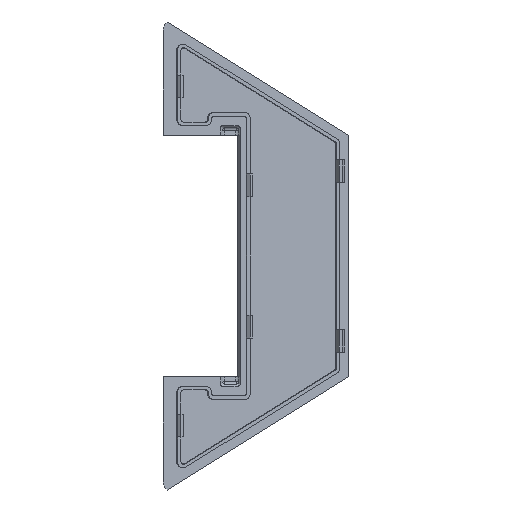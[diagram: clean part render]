
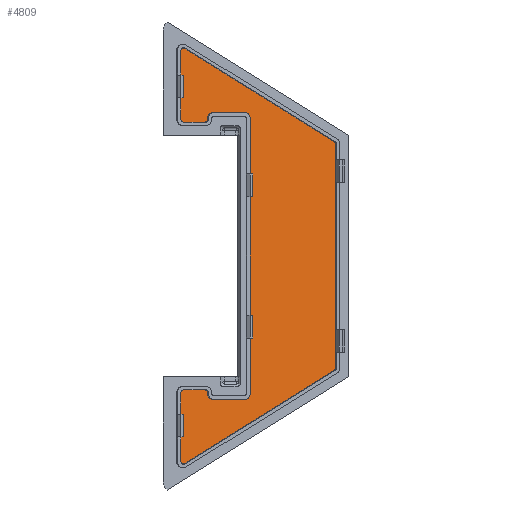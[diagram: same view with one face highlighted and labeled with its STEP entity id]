
A CAD part, front view. The second image highlights one B-rep face of the part: STEP entity #4809.
In plain terms, the highlighted planar face has unit normal (0.244, -0.97, 0).
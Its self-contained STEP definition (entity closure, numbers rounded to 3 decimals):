
#771=DIRECTION('',(-0.97,-0.244,0.));
#772=VECTOR('',#771,11.241);
#773=CARTESIAN_POINT('',(-55.186,55.098,50.7));
#774=LINE('',#773,#772);
#775=DIRECTION('',(0.,0.,-1.));
#776=VECTOR('',#775,0.35);
#777=CARTESIAN_POINT('',(-68.028,51.872,48.7));
#778=LINE('',#777,#776);
#779=CARTESIAN_POINT('',(-68.998,51.628,48.35));
#780=DIRECTION('',(0.244,-0.97,0.));
#781=DIRECTION('',(0.,0.,-1.));
#782=AXIS2_PLACEMENT_3D('',#779,#780,#781);
#784=DIRECTION('',(-0.97,-0.244,0.));
#785=VECTOR('',#784,8.005);
#786=CARTESIAN_POINT('',(-68.998,51.628,47.35));
#787=LINE('',#786,#785);
#788=CARTESIAN_POINT('',(-76.762,49.678,48.35));
#789=DIRECTION('',(0.244,-0.97,0.));
#790=DIRECTION('',(-0.97,-0.244,0.));
#791=AXIS2_PLACEMENT_3D('',#788,#789,#790);
#793=DIRECTION('',(0.,0.,1.));
#794=VECTOR('',#793,24.244);
#795=CARTESIAN_POINT('',(-77.732,49.435,48.35));
#796=LINE('',#795,#794);
#797=CARTESIAN_POINT('',(-76.762,49.678,72.594));
#798=DIRECTION('',(0.244,-0.97,0.));
#799=DIRECTION('',(0.502,0.126,0.856));
#800=AXIS2_PLACEMENT_3D('',#797,#798,#799);
#802=DIRECTION('',(0.83,0.208,-0.517));
#803=VECTOR('',#802,64.015);
#804=CARTESIAN_POINT('',(-76.26,49.804,73.45));
#805=LINE('',#804,#803);
#806=CARTESIAN_POINT('',(-23.628,63.024,39.48));
#807=DIRECTION('',(0.244,-0.97,0.));
#808=DIRECTION('',(0.97,0.244,0.));
#809=AXIS2_PLACEMENT_3D('',#806,#807,#808);
#811=DIRECTION('',(0.,0.,-1.));
#812=VECTOR('',#811,78.959);
#813=CARTESIAN_POINT('',(-22.658,63.268,39.48));
#814=LINE('',#813,#812);
#815=CARTESIAN_POINT('',(-23.628,63.024,-39.48));
#816=DIRECTION('',(0.244,-0.97,0.));
#817=DIRECTION('',(0.502,0.126,-0.856));
#818=AXIS2_PLACEMENT_3D('',#815,#816,#817);
#820=DIRECTION('',(-0.83,-0.208,-0.517));
#821=VECTOR('',#820,64.015);
#822=CARTESIAN_POINT('',(-23.127,63.15,-40.335));
#823=LINE('',#822,#821);
#824=CARTESIAN_POINT('',(-76.762,49.678,-72.594));
#825=DIRECTION('',(0.244,-0.97,0.));
#826=DIRECTION('',(-0.97,-0.244,0.));
#827=AXIS2_PLACEMENT_3D('',#824,#825,#826);
#829=DIRECTION('',(0.,0.,1.));
#830=VECTOR('',#829,24.244);
#831=CARTESIAN_POINT('',(-77.732,49.435,-72.594));
#832=LINE('',#831,#830);
#833=CARTESIAN_POINT('',(-76.762,49.678,-48.35));
#834=DIRECTION('',(0.244,-0.97,0.));
#835=DIRECTION('',(0.,0.,1.));
#836=AXIS2_PLACEMENT_3D('',#833,#834,#835);
#838=DIRECTION('',(0.97,0.244,0.));
#839=VECTOR('',#838,8.005);
#840=CARTESIAN_POINT('',(-76.762,49.678,-47.35));
#841=LINE('',#840,#839);
#842=CARTESIAN_POINT('',(-68.998,51.628,-48.35));
#843=DIRECTION('',(0.244,-0.97,0.));
#844=DIRECTION('',(0.97,0.244,0.));
#845=AXIS2_PLACEMENT_3D('',#842,#843,#844);
#847=DIRECTION('',(0.,0.,-1.));
#848=VECTOR('',#847,0.35);
#849=CARTESIAN_POINT('',(-68.028,51.872,-48.35));
#850=LINE('',#849,#848);
#851=DIRECTION('',(0.97,0.244,0.));
#852=VECTOR('',#851,11.241);
#853=CARTESIAN_POINT('',(-66.089,52.359,-50.7));
#854=LINE('',#853,#852);
#855=DIRECTION('',(0.,0.,1.));
#856=VECTOR('',#855,97.4);
#857=CARTESIAN_POINT('',(-53.246,55.585,-48.7));
#858=LINE('',#857,#856);
#1897=CARTESIAN_POINT('',(-66.089,52.359,48.7));
#1898=DIRECTION('',(-0.244,0.97,0.));
#1899=DIRECTION('',(-0.97,-0.244,0.));
#1900=AXIS2_PLACEMENT_3D('',#1897,#1898,#1899);
#1910=CARTESIAN_POINT('',(-55.186,55.098,48.7));
#1911=DIRECTION('',(-0.244,0.97,0.));
#1912=DIRECTION('',(0.,0.,1.));
#1913=AXIS2_PLACEMENT_3D('',#1910,#1911,#1912);
#1963=CARTESIAN_POINT('',(-55.186,55.098,-48.7));
#1964=DIRECTION('',(-0.244,0.97,0.));
#1965=DIRECTION('',(0.97,0.244,0.));
#1966=AXIS2_PLACEMENT_3D('',#1963,#1964,#1965);
#1976=CARTESIAN_POINT('',(-66.089,52.359,-48.7));
#1977=DIRECTION('',(-0.244,0.97,0.));
#1978=DIRECTION('',(0.,0.,-1.));
#1979=AXIS2_PLACEMENT_3D('',#1976,#1977,#1978);
#3765=CARTESIAN_POINT('',(-77.732,49.435,48.35));
#3767=VERTEX_POINT('',#3765);
#3769=CARTESIAN_POINT('',(-76.762,49.678,47.35));
#3770=VERTEX_POINT('',#3769);
#3773=CARTESIAN_POINT('',(-76.26,49.804,73.45));
#3775=VERTEX_POINT('',#3773);
#3777=CARTESIAN_POINT('',(-77.732,49.435,72.594));
#3778=VERTEX_POINT('',#3777);
#3781=CARTESIAN_POINT('',(-22.658,63.268,39.48));
#3783=VERTEX_POINT('',#3781);
#3785=CARTESIAN_POINT('',(-23.127,63.15,40.335));
#3786=VERTEX_POINT('',#3785);
#3789=CARTESIAN_POINT('',(-23.127,63.15,
-40.335));
#3791=VERTEX_POINT('',#3789);
#3793=CARTESIAN_POINT('',(-22.658,63.268,
-39.48));
#3794=VERTEX_POINT('',#3793);
#3797=CARTESIAN_POINT('',(-77.732,49.435,
-72.594));
#3799=VERTEX_POINT('',#3797);
#3801=CARTESIAN_POINT('',(-76.26,49.804,
-73.45));
#3802=VERTEX_POINT('',#3801);
#3805=CARTESIAN_POINT('',(-76.762,49.678,-47.35));
#3807=VERTEX_POINT('',#3805);
#3809=CARTESIAN_POINT('',(-77.732,49.435,-48.35));
#3810=VERTEX_POINT('',#3809);
#3825=CARTESIAN_POINT('',(-68.998,51.628,47.35));
#3826=VERTEX_POINT('',#3825);
#3827=CARTESIAN_POINT('',(-68.998,51.628,-47.35));
#3828=VERTEX_POINT('',#3827);
#3854=CARTESIAN_POINT('',(-55.186,55.098,-50.7));
#3856=VERTEX_POINT('',#3854);
#3858=CARTESIAN_POINT('',(-53.246,55.585,-48.7));
#3860=VERTEX_POINT('',#3858);
#3870=CARTESIAN_POINT('',(-53.246,55.585,48.7));
#3872=VERTEX_POINT('',#3870);
#3874=CARTESIAN_POINT('',(-55.186,55.098,50.7));
#3876=VERTEX_POINT('',#3874);
#3897=CARTESIAN_POINT('',(-66.089,52.359,-50.7));
#3898=VERTEX_POINT('',#3897);
#3899=CARTESIAN_POINT('',(-66.089,52.359,50.7));
#3900=VERTEX_POINT('',#3899);
#3903=CARTESIAN_POINT('',(-68.028,51.872,48.35));
#3904=VERTEX_POINT('',#3903);
#3907=CARTESIAN_POINT('',(-68.028,51.872,-48.35));
#3909=VERTEX_POINT('',#3907);
#4123=CARTESIAN_POINT('',(-68.028,51.872,48.7));
#4124=VERTEX_POINT('',#4123);
#4126=CARTESIAN_POINT('',(-68.028,51.872,-48.7));
#4128=VERTEX_POINT('',#4126);
#4754=CARTESIAN_POINT('',(-83.745,47.924,-118.75));
#4755=DIRECTION('',(0.244,-0.97,0.));
#4756=DIRECTION('',(0.97,0.244,0.));
#4757=AXIS2_PLACEMENT_3D('',#4754,#4755,#4756);
#4758=PLANE('',#4757);
#4760=ORIENTED_EDGE('',*,*,#4759,.T.);
#4762=ORIENTED_EDGE('',*,*,#4761,.F.);
#4764=ORIENTED_EDGE('',*,*,#4763,.T.);
#4766=ORIENTED_EDGE('',*,*,#4765,.F.);
#4768=ORIENTED_EDGE('',*,*,#4767,.T.);
#4770=ORIENTED_EDGE('',*,*,#4769,.F.);
#4772=ORIENTED_EDGE('',*,*,#4771,.T.);
#4774=ORIENTED_EDGE('',*,*,#4773,.F.);
#4776=ORIENTED_EDGE('',*,*,#4775,.T.);
#4778=ORIENTED_EDGE('',*,*,#4777,.F.);
#4780=ORIENTED_EDGE('',*,*,#4779,.T.);
#4782=ORIENTED_EDGE('',*,*,#4781,.F.);
#4784=ORIENTED_EDGE('',*,*,#4783,.T.);
#4786=ORIENTED_EDGE('',*,*,#4785,.F.);
#4788=ORIENTED_EDGE('',*,*,#4787,.T.);
#4790=ORIENTED_EDGE('',*,*,#4789,.F.);
#4792=ORIENTED_EDGE('',*,*,#4791,.T.);
#4794=ORIENTED_EDGE('',*,*,#4793,.F.);
#4796=ORIENTED_EDGE('',*,*,#4795,.T.);
#4798=ORIENTED_EDGE('',*,*,#4797,.F.);
#4800=ORIENTED_EDGE('',*,*,#4799,.T.);
#4802=ORIENTED_EDGE('',*,*,#4801,.F.);
#4804=ORIENTED_EDGE('',*,*,#4803,.T.);
#4806=ORIENTED_EDGE('',*,*,#4805,.F.);
#4807=EDGE_LOOP('',(#4760,#4762,#4764,#4766,#4768,#4770,#4772,#4774,#4776,#4778,
#4780,#4782,#4784,#4786,#4788,#4790,#4792,#4794,#4796,#4798,#4800,#4802,#4804,
#4806));
#4808=FACE_OUTER_BOUND('',#4807,.F.);
#4809=ADVANCED_FACE('',(#4808),#4758,.T.);
#783=CIRCLE('',#782,1.);
#792=CIRCLE('',#791,1.);
#801=CIRCLE('',#800,1.);
#810=CIRCLE('',#809,1.);
#819=CIRCLE('',#818,1.);
#828=CIRCLE('',#827,1.);
#837=CIRCLE('',#836,1.);
#846=CIRCLE('',#845,1.);
#1901=CIRCLE('',#1900,2.);
#1914=CIRCLE('',#1913,2.);
#1967=CIRCLE('',#1966,2.);
#1980=CIRCLE('',#1979,2.);
#4759=EDGE_CURVE('',#3876,#3900,#774,.T.);
#4761=EDGE_CURVE('',#4124,#3900,#1901,.T.);
#4763=EDGE_CURVE('',#4124,#3904,#778,.T.);
#4765=EDGE_CURVE('',#3826,#3904,#783,.T.);
#4767=EDGE_CURVE('',#3826,#3770,#787,.T.);
#4769=EDGE_CURVE('',#3767,#3770,#792,.T.);
#4771=EDGE_CURVE('',#3767,#3778,#796,.T.);
#4773=EDGE_CURVE('',#3775,#3778,#801,.T.);
#4775=EDGE_CURVE('',#3775,#3786,#805,.T.);
#4777=EDGE_CURVE('',#3783,#3786,#810,.T.);
#4779=EDGE_CURVE('',#3783,#3794,#814,.T.);
#4781=EDGE_CURVE('',#3791,#3794,#819,.T.);
#4783=EDGE_CURVE('',#3791,#3802,#823,.T.);
#4785=EDGE_CURVE('',#3799,#3802,#828,.T.);
#4787=EDGE_CURVE('',#3799,#3810,#832,.T.);
#4789=EDGE_CURVE('',#3807,#3810,#837,.T.);
#4791=EDGE_CURVE('',#3807,#3828,#841,.T.);
#4793=EDGE_CURVE('',#3909,#3828,#846,.T.);
#4795=EDGE_CURVE('',#3909,#4128,#850,.T.);
#4797=EDGE_CURVE('',#3898,#4128,#1980,.T.);
#4799=EDGE_CURVE('',#3898,#3856,#854,.T.);
#4801=EDGE_CURVE('',#3860,#3856,#1967,.T.);
#4803=EDGE_CURVE('',#3860,#3872,#858,.T.);
#4805=EDGE_CURVE('',#3876,#3872,#1914,.T.);
